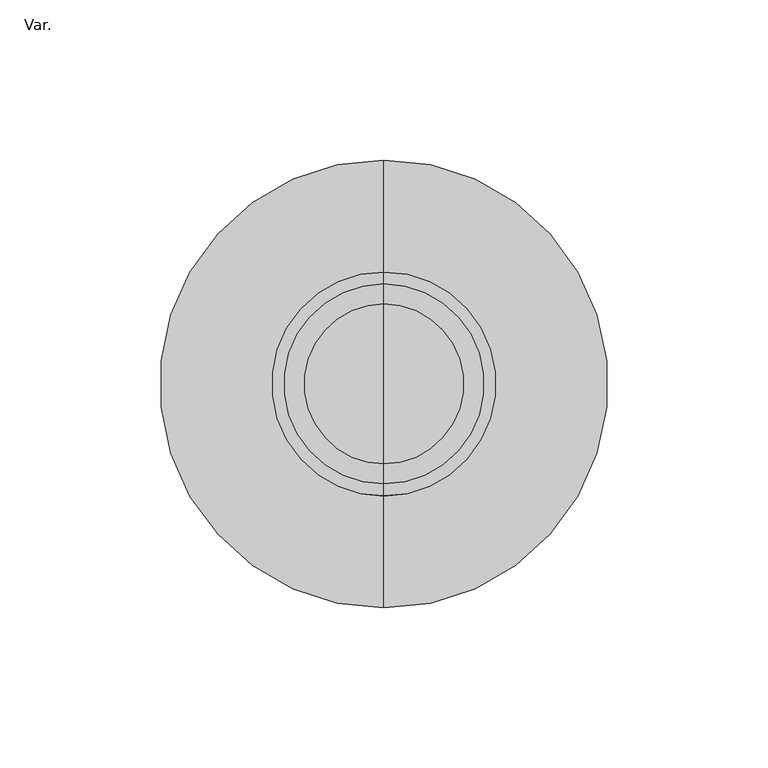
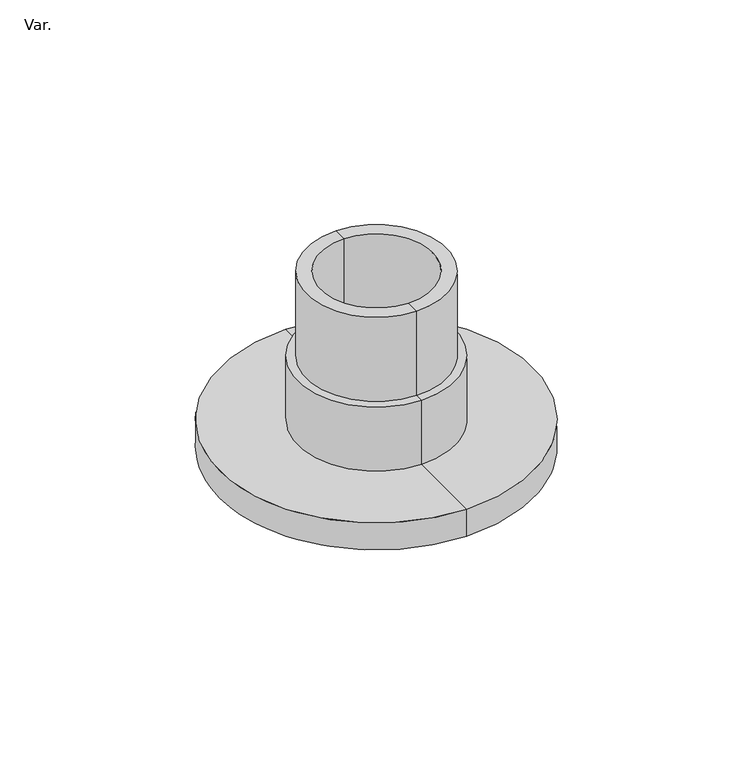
"""IFC4 building model written with IfcOpenShell, lengths in millimetres: pipe fitting geometry, PlastigamaWavin_Unionesdetubería_LineaDoradaAdaptadorTanque : Var.."""

from ifc_helpers import new_model, si_unit, point, frame, origin, place, context, project, spatial, polyline, circle_curve, ellipse_curve, trimmed, source, transform, mapped, element, save
from ifc_brep_helpers import plane_surface, cylinder_surface, revolved_surface, advanced_brep


def var_4b903c0a(model_context):
    return source(origin(), model_context, "Body", "AdvancedBrep", [
        advanced_brep(
        [(0.0017529, -31.25, 33.2083333), (0.0017529, 31.25, 33.2083333), (0.001174, 31.25, 73.0083333), (0.001174, -31.25, 73.0083333), (0.0017529, -35.0, 33.2083333), (0.0017529, 35.0, 33.2083333), (0.0021921, -35.0, 3.0083333), (0.0021921, 35.0, 3.0083333), (0.0021921, -70.0, 3.0083333), (0.0021921, 70.0, 3.0083333), (0.0023769, -70.0, -9.6916667), (0.0023769, 70.0, -9.6916667), (0.0023769, -37.5, -9.6916667), (0.0023769, 37.5, -9.6916667), (0.0026472, -37.5, -28.275), (0.0026472, 37.5, -28.275), (0.0027259, -5.4166667, -33.6916667), (0.0027259, 5.4166667, -33.6916667), (0.0027259, 32.0833333, -33.6916667), (0.0027259, -32.0833333, -33.6916667), (0.0017529, -25.0, 33.2083333), (0.0017529, 25.0, 33.2083333), (0.0017529, 0.0, 33.2083333), (0.001174, -25.0, 73.0083333), (0.001174, 25.0, 73.0083333), (0.0026472, 0.0, -28.275)],
        [
            (0, 1, circle_curve(frame((0.0017529, 0.0, 33.2083333), z_axis=(-1.4545035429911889e-05, 0.0, 0.9999999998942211), x_axis=(0.0, 1.0000000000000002, 0.0)), 31.25)),
            (1, 2),
            (2, 3, circle_curve(frame((0.001174, 0.0, 73.0083333), z_axis=(1.4545035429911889e-05, 0.0, -0.9999999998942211), x_axis=(0.0, 1.0000000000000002, 0.0)), 31.25)),
            (3, 0),
            (1, 0, circle_curve(frame((0.0017529, 0.0, 33.2083333), z_axis=(-1.4545035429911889e-05, 0.0, 0.9999999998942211), x_axis=(0.0, 1.0000000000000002, 0.0)), 31.25)),
            (3, 2, circle_curve(frame((0.001174, 0.0, 73.0083333), z_axis=(1.4545035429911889e-05, 0.0, -0.9999999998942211), x_axis=(0.0, 1.0000000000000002, 0.0)), 31.25)),
            (4, 5, circle_curve(frame((0.0017529, 0.0, 33.2083333), z_axis=(-1.4545035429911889e-05, 0.0, 0.9999999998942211), x_axis=(0.0, 1.0000000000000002, 0.0)), 35.0)),
            (5, 1),
            (0, 4),
            (5, 4, circle_curve(frame((0.0017529, 0.0, 33.2083333), z_axis=(-1.4545035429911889e-05, 0.0, 0.9999999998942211), x_axis=(0.0, 1.0000000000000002, 0.0)), 35.0)),
            (6, 7, circle_curve(frame((0.0021921, 0.0, 3.0083333), z_axis=(-1.4545035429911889e-05, 0.0, 0.9999999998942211), x_axis=(0.0, 1.0000000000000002, 0.0)), 35.0)),
            (7, 5),
            (4, 6),
            (7, 6, circle_curve(frame((0.0021921, 0.0, 3.0083333), z_axis=(-1.4545035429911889e-05, 0.0, 0.9999999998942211), x_axis=(0.0, 1.0000000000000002, 0.0)), 35.0)),
            (8, 9, circle_curve(frame((0.0021921, 0.0, 3.0083333), z_axis=(-1.4545035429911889e-05, 0.0, 0.9999999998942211), x_axis=(0.0, 1.0000000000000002, 0.0)), 70.0)),
            (9, 7),
            (6, 8),
            (9, 8, circle_curve(frame((0.0021921, 0.0, 3.0083333), z_axis=(-1.4545035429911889e-05, 0.0, 0.9999999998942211), x_axis=(0.0, 1.0000000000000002, 0.0)), 70.0)),
            (10, 11, circle_curve(frame((0.0023769, 0.0, -9.6916667), z_axis=(-1.4545035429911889e-05, 0.0, 0.9999999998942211), x_axis=(0.0, 1.0000000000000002, 0.0)), 70.0)),
            (11, 9),
            (8, 10),
            (11, 10, circle_curve(frame((0.0023769, 0.0, -9.6916667), z_axis=(-1.4545035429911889e-05, 0.0, 0.9999999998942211), x_axis=(0.0, 1.0000000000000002, 0.0)), 70.0)),
            (12, 13, circle_curve(frame((0.0023769, 0.0, -9.6916667), z_axis=(-1.4545035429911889e-05, 0.0, 0.9999999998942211), x_axis=(0.0, 1.0000000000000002, 0.0)), 37.5)),
            (13, 11),
            (10, 12),
            (13, 12, circle_curve(frame((0.0023769, 0.0, -9.6916667), z_axis=(-1.4545035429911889e-05, 0.0, 0.9999999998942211), x_axis=(0.0, 1.0000000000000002, 0.0)), 37.5)),
            (14, 15, circle_curve(frame((0.0026472, 0.0, -28.275), z_axis=(-1.4545035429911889e-05, 0.0, 0.9999999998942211), x_axis=(0.0, 1.0000000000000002, 0.0)), 37.5)),
            (15, 13),
            (12, 14),
            (15, 14, circle_curve(frame((0.0026472, 0.0, -28.275), z_axis=(-1.4545035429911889e-05, 0.0, 0.9999999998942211), x_axis=(0.0, 1.0000000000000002, 0.0)), 37.5)),
            (16, 17, circle_curve(frame((0.0027259, 0.0, -33.6916667), z_axis=(-1.4545035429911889e-05, 0.0, 0.9999999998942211), x_axis=(0.0, 1.0000000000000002, 0.0)), 5.4166667)),
            (17, 18),
            (18, 19, circle_curve(frame((0.0027259, 0.0, -33.6916667), z_axis=(1.4545035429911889e-05, 0.0, -0.9999999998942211), x_axis=(0.0, 1.0000000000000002, 0.0)), 32.0833333)),
            (19, 16),
            (17, 16, circle_curve(frame((0.0027259, 0.0, -33.6916667), z_axis=(-1.4545035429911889e-05, 0.0, 0.9999999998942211), x_axis=(0.0, 1.0000000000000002, 0.0)), 5.4166667)),
            (19, 18, circle_curve(frame((0.0027259, 0.0, -33.6916667), z_axis=(1.4545035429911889e-05, 0.0, -0.9999999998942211), x_axis=(0.0, 1.0000000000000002, 0.0)), 32.0833333)),
            (20, 21, circle_curve(frame((0.0017529, 0.0, 33.2083333), z_axis=(-1.4545035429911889e-05, 0.0, 0.9999999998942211), x_axis=(0.0, 1.0000000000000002, 0.0)), 25.0)),
            (21, 22),
            (22, 20),
            (21, 20, circle_curve(frame((0.0017529, 0.0, 33.2083333), z_axis=(-1.4545035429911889e-05, 0.0, 0.9999999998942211), x_axis=(0.0, 1.0000000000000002, 0.0)), 25.0)),
            (23, 24, circle_curve(frame((0.001174, 0.0, 73.0083333), z_axis=(-1.4545035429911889e-05, 0.0, 0.9999999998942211), x_axis=(0.0, 1.0000000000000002, 0.0)), 25.0)),
            (24, 21),
            (20, 23),
            (24, 23, circle_curve(frame((0.001174, 0.0, 73.0083333), z_axis=(-1.4545035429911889e-05, 0.0, 0.9999999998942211), x_axis=(0.0, 1.0000000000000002, 0.0)), 25.0)),
            (2, 24),
            (23, 3),
            (18, 15, circle_curve(frame((0.0026472, 32.0833333, -28.275), z_axis=(0.9999999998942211, 0.0, 1.4545035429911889e-05), x_axis=(-1.4545035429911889e-05, 0.0, 0.9999999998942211)), 5.4166667)),
            (14, 19, circle_curve(frame((0.0026472, -32.0833333, -28.275), z_axis=(0.9999999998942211, 0.0, 1.4545035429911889e-05), x_axis=(-1.4545035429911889e-05, 0.0, 0.9999999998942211)), 5.4166667)),
            (25, 17, circle_curve(frame((0.0026472, 5.4166667, -28.275), z_axis=(0.9999999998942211, 0.0, 1.4545035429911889e-05), x_axis=(-1.4545035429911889e-05, 0.0, 0.9999999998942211)), 5.4166667)),
            (16, 25, circle_curve(frame((0.0026472, -5.4166667, -28.275), z_axis=(0.9999999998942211, 0.0, 1.4545035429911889e-05), x_axis=(-1.4545035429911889e-05, 0.0, 0.9999999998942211)), 5.4166667)),
        ],
        [
            cylinder_surface(frame((-0.0268979, 0.0, 2003.0083331), z_axis=(1.4545035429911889e-05, 0.0, -0.9999999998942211), x_axis=(0.0, 1.0000000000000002, 0.0)), 31.25),
            plane_surface(frame((0.0017529, 0.0, 33.2083333), z_axis=(-1.4545035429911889e-05, 0.0, 0.9999999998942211), x_axis=(0.0, 1.0, 0.0))),
            cylinder_surface(frame((-0.0268979, 0.0, 2003.0083331), z_axis=(1.4545035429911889e-05, 0.0, -0.9999999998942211), x_axis=(0.0, 1.0000000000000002, 0.0)), 35.0),
            plane_surface(frame((0.0021921, 0.0, 3.0083333), z_axis=(-1.4545035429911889e-05, 0.0, 0.9999999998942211), x_axis=(0.0, 1.0, 0.0))),
            cylinder_surface(frame((-0.0268979, 0.0, 2003.0083331), z_axis=(1.4545035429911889e-05, 0.0, -0.9999999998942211), x_axis=(0.0, 1.0000000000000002, 0.0)), 70.0),
            plane_surface(frame((0.0023769, 0.0, -9.6916667), z_axis=(1.4545035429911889e-05, 0.0, -0.9999999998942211), x_axis=(0.0, 1.0, 0.0))),
            cylinder_surface(frame((-0.0268979, 0.0, 2003.0083331), z_axis=(1.4545035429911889e-05, 0.0, -0.9999999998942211), x_axis=(0.0, 1.0000000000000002, 0.0)), 37.5),
            plane_surface(frame((0.0027259, 0.0, -33.6916667), z_axis=(1.4545035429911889e-05, 0.0, -0.9999999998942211), x_axis=(0.0, 1.0, 0.0))),
            revolved_surface(polyline([(0.0017529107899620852, 25.000000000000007, 33.20833330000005), (0.0011740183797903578, 25.000000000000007, 73.0083333)]), (-0.0268979, 0.0, 2003.0083331), (1.4545035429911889e-05, 0.0, -0.9999999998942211)),
            plane_surface(frame((0.001174, 0.0, 73.0083333), z_axis=(-1.4545035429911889e-05, 0.0, 0.9999999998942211), x_axis=(0.0, 1.0, 0.0))),
            revolved_surface(trimmed(ellipse_curve(frame((0.0026472, 32.0833333, -28.275), z_axis=(-0.9999999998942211, 0.0, -1.4545035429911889e-05), x_axis=(-1.4545035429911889e-05, 0.0, 0.9999999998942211)), 5.4166667, 5.4166667), [point((0.0026472, 37.5, -28.275))], [point((0.0027259, 32.0833333, -33.6916667))], True, "CARTESIAN"), (-0.0268979, 0.0, 2003.0083331), (1.4545035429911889e-05, 0.0, -0.9999999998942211)),
            revolved_surface(trimmed(ellipse_curve(frame((0.0026472, 5.4166667, -28.275), z_axis=(-0.9999999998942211, 0.0, -1.4545035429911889e-05), x_axis=(-1.4545035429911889e-05, 0.0, 0.9999999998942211)), 5.4166667, 5.4166667), [point((0.0027259, 5.4166667, -33.6916667))], [point((0.0026472, 0.0, -28.275))], True, "CARTESIAN"), (-0.0268979, 0.0, 2003.0083331), (1.4545035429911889e-05, 0.0, -0.9999999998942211)),
        ],
        [
            (0, [[1, 2, 3, 4]]),
            (0, [[5, -4, 6, -2]]),
            (1, [[7, 8, -1, 9]]),
            (1, [[10, -9, -5, -8]]),
            (2, [[11, 12, -7, 13]]),
            (2, [[14, -13, -10, -12]]),
            (3, [[15, 16, -11, 17]]),
            (3, [[18, -17, -14, -16]]),
            (4, [[19, 20, -15, 21]]),
            (4, [[22, -21, -18, -20]]),
            (5, [[23, 24, -19, 25]]),
            (5, [[26, -25, -22, -24]]),
            (6, [[27, 28, -23, 29]]),
            (6, [[30, -29, -26, -28]]),
            (7, [[31, 32, 33, 34]]),
            (7, [[35, -34, 36, -32]]),
            (1, [[37, 38, 39]]),
            (1, [[40, -39, -38]]),
            (8, [[41, 42, -37, 43]]),
            (8, [[44, -43, -40, -42]]),
            (9, [[-3, 45, -41, 46]]),
            (9, [[-6, -46, -44, -45]]),
            (10, [[-33, 47, -27, 48]]),
            (10, [[-36, -48, -30, -47]]),
            (11, [[49, -31, 50]]),
            (11, [[-50, -35, -49]]),
        ],
    ),
    ])


if __name__ == "__main__":
    model = new_model("IFC4")
    model_context = context("Model", 3, world=origin())
    ifc_project = project(units=[si_unit("LENGTHUNIT", "METRE", prefix="MILLI")], contexts=[model_context])
    site = spatial("IfcSite", under=ifc_project)
    building = spatial("IfcBuilding", under=site)
    placement = place(None, origin())
    var_shape = var_4b903c0a(model_context)
    element("IfcPipeFitting", 1, ObjectType="PlastigamaWavin_Unionesdetubería_LineaDoradaAdaptadorTanque : Var.", at=placement, inside=building, context=model_context, shape_type="MappedRepresentation", body=[
        mapped(var_shape, transform((0.0, 0.0, 0.0), x_axis=(1.0, 0.0, 0.0), y_axis=(0.0, 1.0, 0.0), z_axis=(0.0, 0.0, 1.0))),
    ])
    save(model, "model.ifc")
